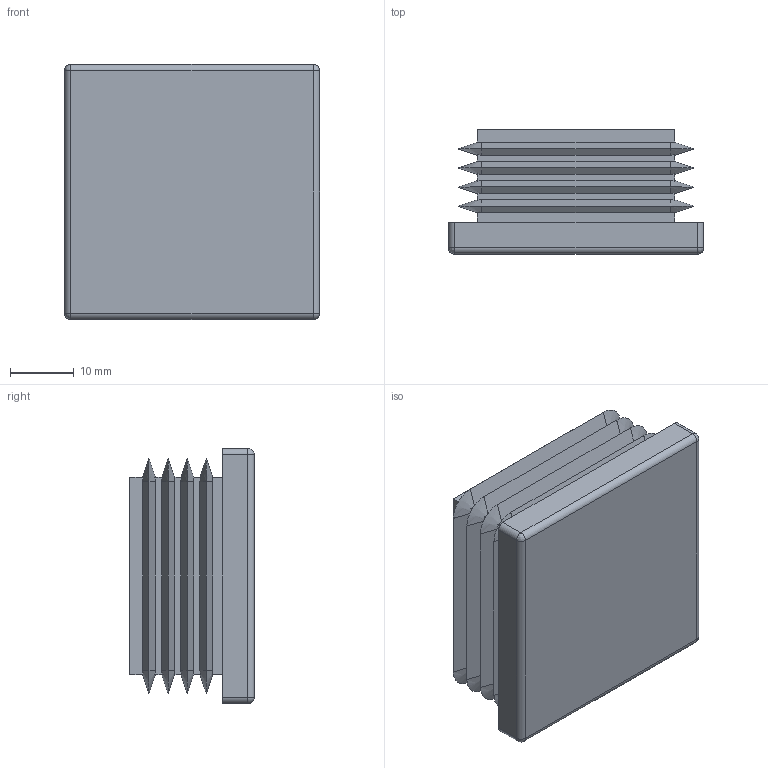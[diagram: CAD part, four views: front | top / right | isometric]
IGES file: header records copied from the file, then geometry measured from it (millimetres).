
Start section: SolidWorks IGES file using analytic representation for surfaces
Global section: file name: C:\HEMSIDA\cad\SLDPRT_2015\ifr\\ifr_40.igs; native system: SolidWorks 2015; preprocessor: SolidWorks 2015; author: Magnus; date: 150818.111801; units: millimetre
Bounding box: 40 x 19.5 x 40 mm (x, y, z)
Surface area: 9720.9 mm2 (no closed solid volume)
Topology: 0 solids, 0 shells, 108 faces, 760 edges, 756 vertices
Faces by surface type: bspline 64, revolution 44
